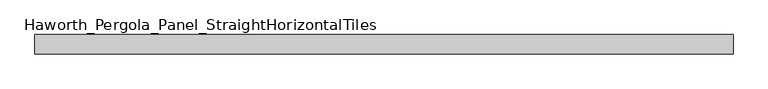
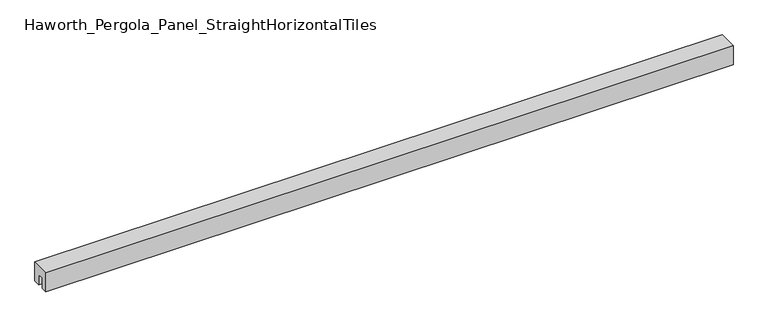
"""IFC4 building model written with IfcOpenShell, lengths in millimetres: furniture geometry, Haworth_Pergola_Panel_StraightHorizontalTiles : Horizontal Tiles (28h 48h 16h)- 96h 144w."""

from ifc_helpers import new_model, si_unit, frame, origin, place, context, project, spatial, polyline, outline, extrude, source, transform, mapped, element, save


def haworth_pergola_panel_straighthorizontaltiles_232f749c(model_context):
    return source(origin(), model_context, "Body", "SweptSolid", [
        extrude(outline(polyline([(-50.8, 2438.4), (50.8, 2438.4), (50.8, 2331.8390625), (15.2182948, 2331.8390625), (15.2182948, 2388.7001663), (-15.2182948, 2388.7001663), (-15.2182948, 2331.8390625), (-50.8, 2331.8390625), (-50.8, 2438.4)])), frame((-1790.7, 0.0, 0.0), z_axis=(1.0, 0.0, 0.0), x_axis=(0.0, 1.0, 0.0)), (0.0, 0.0, 1.0), 3657.6),
    ])


if __name__ == "__main__":
    model = new_model("IFC4")
    model_context = context("Model", 3, world=origin())
    ifc_project = project(units=[si_unit("LENGTHUNIT", "METRE", prefix="MILLI")], contexts=[model_context])
    site = spatial("IfcSite", under=ifc_project)
    building = spatial("IfcBuilding", under=site)
    placement = place(None, origin())
    haworth_pergola_panel_straighthorizontaltiles_shape = haworth_pergola_panel_straighthorizontaltiles_232f749c(model_context)
    element("IfcFurniture", 1, ObjectType="Haworth_Pergola_Panel_StraightHorizontalTiles : Horizontal Tiles (28h 48h 16h)- 96h 144w", at=placement, inside=building, context=model_context, shape_type="MappedRepresentation", body=[
        mapped(haworth_pergola_panel_straighthorizontaltiles_shape, transform((0.0, 0.0, 0.0), x_axis=(1.0, 0.0, 0.0), y_axis=(0.0, 1.0, 0.0), z_axis=(0.0, 0.0, 1.0))),
    ])
    save(model, "model.ifc")
